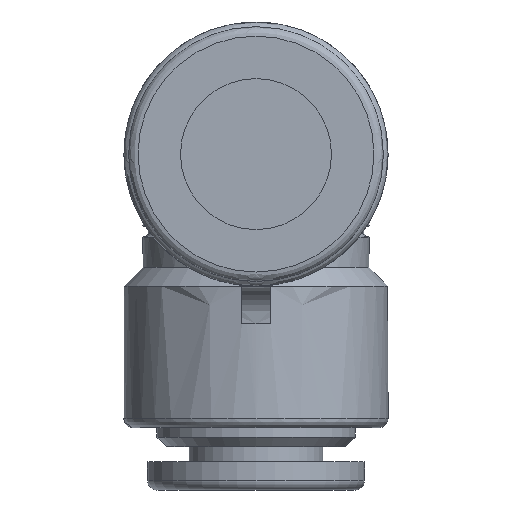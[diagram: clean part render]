
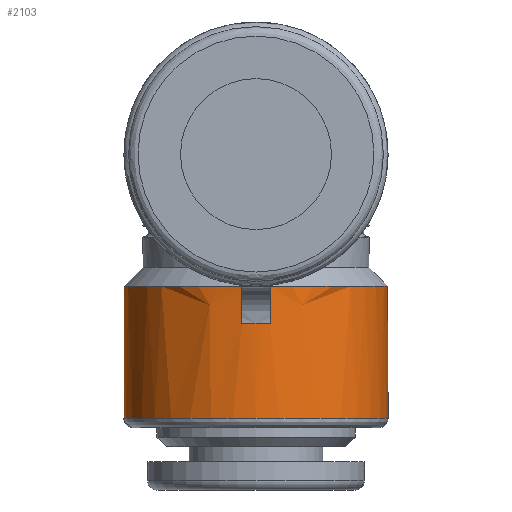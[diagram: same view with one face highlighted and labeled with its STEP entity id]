
A CAD part, left-side view. The second image highlights one B-rep face of the part: STEP entity #2103.
In plain terms, the highlighted free-form (B-spline) face has degree [1, 2] with [2, 9] control points.
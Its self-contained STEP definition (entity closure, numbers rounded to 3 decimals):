
#675=CARTESIAN_POINT('',(-7.,0.0,-9.));
#676=VERTEX_POINT('',#675);
#677=CARTESIAN_POINT('',(-6.96,0.75,-9.));
#678=VERTEX_POINT('',#677);
#679=CARTESIAN_POINT('',(0.,0.0,-9.));
#680=DIRECTION('',(0.0,0.0,-1.0));
#681=DIRECTION('',(1.0,0.0,0.0));
#682=AXIS2_PLACEMENT_3D('',#679,#680,#681);
#683=CIRCLE('',#682,7.);
#684=EDGE_CURVE('',#676,#678,#683,.T.);
#708=CARTESIAN_POINT('',(-6.96,-0.75,-9.));
#709=VERTEX_POINT('',#708);
#710=CARTESIAN_POINT('',(0.,0.0,-9.));
#711=DIRECTION('',(0.0,0.0,-1.0));
#712=DIRECTION('',(1.0,0.0,0.0));
#713=AXIS2_PLACEMENT_3D('',#710,#711,#712);
#714=CIRCLE('',#713,7.);
#715=EDGE_CURVE('',#709,#676,#714,.T.);
#749=CARTESIAN_POINT('',(-6.96,-0.75,-7.));
#750=VERTEX_POINT('',#749);
#751=CARTESIAN_POINT('',(-6.96,-0.75,-7.));
#752=DIRECTION('',(0.0,0.0,-1.0));
#753=VECTOR('',#752,2.0);
#754=LINE('',#751,#753);
#755=EDGE_CURVE('',#750,#709,#754,.T.);
#898=CARTESIAN_POINT('',(-6.96,0.75,-7.));
#899=VERTEX_POINT('',#898);
#913=CARTESIAN_POINT('',(-6.96,0.75,-9.));
#914=DIRECTION('',(0.0,0.0,1.0));
#915=VECTOR('',#914,2.0);
#916=LINE('',#913,#915);
#917=EDGE_CURVE('',#678,#899,#916,.T.);
#1913=CARTESIAN_POINT('',(0.,7.,-14.));
#1914=VERTEX_POINT('',#1913);
#1915=CARTESIAN_POINT('',(0.,0.0,-14.));
#1916=DIRECTION('',(0.0,0.0,1.0));
#1917=DIRECTION('',(-1.0,0.0,0.0));
#1918=AXIS2_PLACEMENT_3D('',#1915,#1916,#1917);
#1919=CIRCLE('',#1918,7.);
#1920=EDGE_CURVE('',#1914,#1914,#1919,.T.);
#1954=CARTESIAN_POINT('',(6.96,-0.75,-7.));
#1955=VERTEX_POINT('',#1954);
#1956=CARTESIAN_POINT('',(0.,0.0,-7.));
#1957=DIRECTION('',(0.0,0.0,1.0));
#1958=DIRECTION('',(1.0,0.0,0.0));
#1959=AXIS2_PLACEMENT_3D('',#1956,#1957,#1958);
#1960=CIRCLE('',#1959,7.);
#1961=EDGE_CURVE('',#750,#1955,#1960,.T.);
#2008=CARTESIAN_POINT('',(6.96,0.75,-7.));
#2009=VERTEX_POINT('',#2008);
#2023=CARTESIAN_POINT('',(0.,0.0,-7.));
#2024=DIRECTION('',(0.0,0.0,-1.0));
#2025=DIRECTION('',(-1.0,0.0,0.0));
#2026=AXIS2_PLACEMENT_3D('',#2023,#2024,#2025);
#2027=CIRCLE('',#2026,7.);
#2028=EDGE_CURVE('',#899,#2009,#2027,.T.);
#2034=CARTESIAN_POINT('',(7.,0.,-7.));
#2035=CARTESIAN_POINT('',(7.,0.,-14.));
#2036=CARTESIAN_POINT('',(7.,7.,-7.));
#2037=CARTESIAN_POINT('',(7.,7.,-14.));
#2038=CARTESIAN_POINT('',(0.,7.0,-7.));
#2039=CARTESIAN_POINT('',(0.,7.,-14.));
#2040=CARTESIAN_POINT('',(-7.,7.,-7.));
#2041=CARTESIAN_POINT('',(-7.,7.,-14.));
#2042=CARTESIAN_POINT('',(-7.,0.,-7.));
#2043=CARTESIAN_POINT('',(-7.,0.,-14.));
#2044=CARTESIAN_POINT('',(-7.,-7.,-7.));
#2045=CARTESIAN_POINT('',(-7.,-7.,-14.));
#2046=CARTESIAN_POINT('',(0.,-7.0,-7.));
#2047=CARTESIAN_POINT('',(0.,-7.,-14.));
#2048=CARTESIAN_POINT('',(7.,-7.,-7.));
#2049=CARTESIAN_POINT('',(7.,-7.,-14.));
#2050=CARTESIAN_POINT('',(7.,0.,-7.));
#2051=CARTESIAN_POINT('',(7.,0.,-14.));
#2059=(BOUNDED_SURFACE()B_SPLINE_SURFACE(1,2,((#2034,#2036,#2038,#2040,#2042,#2044,#2046,#2048,#2050),(#2035,#2037,#2039,#2041,#2043,#2045,#2047,#2049,#2051)),.UNSPECIFIED.,.F.,.T.,.U.)B_SPLINE_SURFACE_WITH_KNOTS((2,2),(3,2,2,2,3),(0.143,1.143),(0.0,10.996,21.991,32.987,43.982),.UNSPECIFIED.)GEOMETRIC_REPRESENTATION_ITEM()RATIONAL_B_SPLINE_SURFACE(((1.0,0.707,1.0,0.707,1.0,0.707,1.0,0.707,1.0),(1.0,0.707,1.0,0.707,1.0,0.707,1.0,0.707,1.0)))REPRESENTATION_ITEM('')SURFACE());
#2060=ORIENTED_EDGE('',*,*,#2028,.T.);
#2061=CARTESIAN_POINT('',(6.96,0.75,-9.));
#2062=VERTEX_POINT('',#2061);
#2063=CARTESIAN_POINT('',(6.96,0.75,-9.));
#2064=DIRECTION('',(0.0,0.0,1.0));
#2065=VECTOR('',#2064,2.0);
#2066=LINE('',#2063,#2065);
#2067=EDGE_CURVE('',#2062,#2009,#2066,.T.);
#2068=ORIENTED_EDGE('',*,*,#2067,.F.);
#2069=CARTESIAN_POINT('',(7.,0.0,-9.));
#2070=VERTEX_POINT('',#2069);
#2071=CARTESIAN_POINT('',(0.,0.0,-9.));
#2072=DIRECTION('',(0.0,0.0,1.0));
#2073=DIRECTION('',(-1.0,0.0,0.0));
#2074=AXIS2_PLACEMENT_3D('',#2071,#2072,#2073);
#2075=CIRCLE('',#2074,7.);
#2076=EDGE_CURVE('',#2070,#2062,#2075,.T.);
#2077=ORIENTED_EDGE('',*,*,#2076,.F.);
#2078=CARTESIAN_POINT('',(6.96,-0.75,-9.));
#2079=VERTEX_POINT('',#2078);
#2080=CARTESIAN_POINT('',(0.,0.0,-9.));
#2081=DIRECTION('',(0.0,0.0,1.0));
#2082=DIRECTION('',(-1.0,0.0,0.0));
#2083=AXIS2_PLACEMENT_3D('',#2080,#2081,#2082);
#2084=CIRCLE('',#2083,7.);
#2085=EDGE_CURVE('',#2079,#2070,#2084,.T.);
#2086=ORIENTED_EDGE('',*,*,#2085,.F.);
#2087=CARTESIAN_POINT('',(6.96,-0.75,-7.));
#2088=DIRECTION('',(0.0,0.0,-1.0));
#2089=VECTOR('',#2088,2.0);
#2090=LINE('',#2087,#2089);
#2091=EDGE_CURVE('',#1955,#2079,#2090,.T.);
#2092=ORIENTED_EDGE('',*,*,#2091,.F.);
#2093=ORIENTED_EDGE('',*,*,#1961,.F.);
#2094=ORIENTED_EDGE('',*,*,#755,.T.);
#2095=ORIENTED_EDGE('',*,*,#715,.T.);
#2096=ORIENTED_EDGE('',*,*,#684,.T.);
#2097=ORIENTED_EDGE('',*,*,#917,.T.);
#2098=EDGE_LOOP('',(#2060,#2068,#2077,#2086,#2092,#2093,#2094,#2095,#2096,#2097));
#2099=FACE_OUTER_BOUND('',#2098,.T.);
#2100=ORIENTED_EDGE('',*,*,#1920,.T.);
#2101=EDGE_LOOP('',(#2100));
#2102=FACE_BOUND('',#2101,.T.);
#2103=ADVANCED_FACE('',(#2099,#2102),#2059,.T.);
